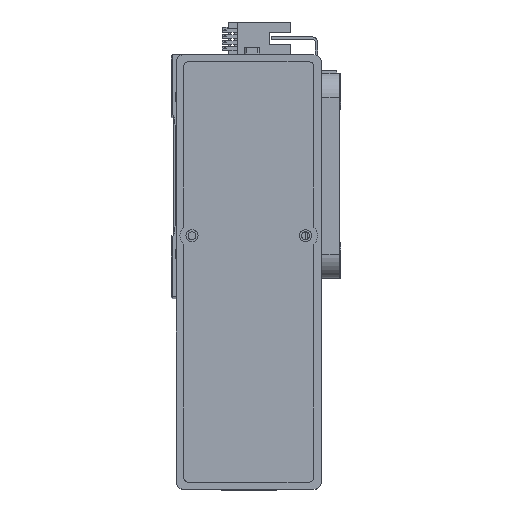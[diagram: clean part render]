
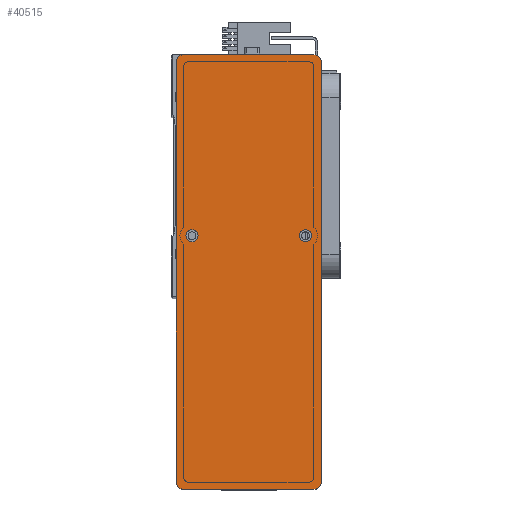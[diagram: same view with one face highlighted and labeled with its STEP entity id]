
A CAD part, top view. The second image highlights one B-rep face of the part: STEP entity #40515.
In plain terms, the highlighted planar face has unit normal (0, 0, 1) as drawn and (0, 0, -1) by its records, which use the part's own axes.
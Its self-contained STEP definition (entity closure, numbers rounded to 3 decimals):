
#1151 = AXIS2_PLACEMENT_3D ( 'NONE', #22767, #54071, #27335 ) ;
#1906 = VERTEX_POINT ( 'NONE', #56718 ) ;
#2569 = DIRECTION ( 'NONE',  ( 1., 0., 0. ) ) ;
#2951 = DIRECTION ( 'NONE',  ( 0., 1., 0. ) ) ;
#3538 = AXIS2_PLACEMENT_3D ( 'NONE', #42381, #15615, #46854 ) ;
#3693 = DIRECTION ( 'NONE',  ( -1., 0., 0. ) ) ;
#3739 = DIRECTION ( 'NONE',  ( 0., 0., -1. ) ) ;
#3804 = CARTESIAN_POINT ( 'NONE',  ( -87., 30., 0. ) ) ;
#4254 = VERTEX_POINT ( 'NONE', #3804 ) ;
#6345 = ORIENTED_EDGE ( 'NONE', *, *, #7943, .T. ) ;
#7034 = VERTEX_POINT ( 'NONE', #46156 ) ;
#7065 = DIRECTION ( 'NONE',  ( 0., 0., -1. ) ) ;
#7943 = EDGE_CURVE ( 'NONE', #1906, #38915, #31058, .T. ) ;
#9013 = CARTESIAN_POINT ( 'NONE',  ( 90., 27., 0. ) ) ;
#9282 = LINE ( 'NONE', #40939, #19694 ) ;
#9411 = EDGE_LOOP ( 'NONE', ( #25864, #16130, #38526, #6345, #53189, #22378, #34315, #50955 ) ) ;
#11920 = AXIS2_PLACEMENT_3D ( 'NONE', #23683, #55012, #28282 ) ;
#13095 = LINE ( 'NONE', #29879, #35459 ) ;
#13145 = EDGE_CURVE ( 'NONE', #31931, #38915, #18078, .T. ) ;
#13244 = VERTEX_POINT ( 'NONE', #34025 ) ;
#14213 = FACE_BOUND ( 'NONE', #33367, .T. ) ;
#14632 = CARTESIAN_POINT ( 'NONE',  ( -17.5, -23.5, 0. ) ) ;
#14774 = CARTESIAN_POINT ( 'NONE',  ( -90., -27., 0. ) ) ;
#15615 = DIRECTION ( 'NONE',  ( 0., 0., -1. ) ) ;
#15971 = CIRCLE ( 'NONE', #28433, 3. ) ;
#16130 = ORIENTED_EDGE ( 'NONE', *, *, #46073, .T. ) ;
#17625 = AXIS2_PLACEMENT_3D ( 'NONE', #57153, #30437, #3693 ) ;
#18078 = LINE ( 'NONE', #33089, #30004 ) ;
#18925 = ORIENTED_EDGE ( 'NONE', *, *, #28593, .F. ) ;
#19249 = DIRECTION ( 'NONE',  ( 0., 0., 1. ) ) ;
#19694 = VECTOR ( 'NONE', #23104, 1000. ) ;
#19859 = AXIS2_PLACEMENT_3D ( 'NONE', #22635, #53931, #27179 ) ;
#19896 = AXIS2_PLACEMENT_3D ( 'NONE', #33851, #7065, #38308 ) ;
#20318 = CIRCLE ( 'NONE', #17625, 2.5 ) ;
#20322 = CARTESIAN_POINT ( 'NONE',  ( 90., -27., 0. ) ) ;
#20643 = CIRCLE ( 'NONE', #11920, 2.5 ) ;
#21149 = VERTEX_POINT ( 'NONE', #9013 ) ;
#22378 = ORIENTED_EDGE ( 'NONE', *, *, #51408, .T. ) ;
#22635 = CARTESIAN_POINT ( 'NONE',  ( -15., 23.5, 0. ) ) ;
#22767 = CARTESIAN_POINT ( 'NONE',  ( 87., -27., 0. ) ) ;
#23104 = DIRECTION ( 'NONE',  ( -1., 0., 0. ) ) ;
#23683 = CARTESIAN_POINT ( 'NONE',  ( -15., -23.5, 0. ) ) ;
#24526 = CARTESIAN_POINT ( 'NONE',  ( -17.5, 23.5, 0. ) ) ;
#25864 = ORIENTED_EDGE ( 'NONE', *, *, #49652, .F. ) ;
#26851 = DIRECTION ( 'NONE',  ( 1., 0., 0. ) ) ;
#26953 = AXIS2_PLACEMENT_3D ( 'NONE', #41525, #19249, #50536 ) ;
#27179 = DIRECTION ( 'NONE',  ( -1., 0., 0. ) ) ;
#27335 = DIRECTION ( 'NONE',  ( 1., 0., 0. ) ) ;
#28282 = DIRECTION ( 'NONE',  ( -1., 0., 0. ) ) ;
#28433 = AXIS2_PLACEMENT_3D ( 'NONE', #56038, #29319, #2569 ) ;
#28593 = EDGE_CURVE ( 'NONE', #28751, #49379, #20643, .T. ) ;
#28751 = VERTEX_POINT ( 'NONE', #51293 ) ;
#28785 = DIRECTION ( 'NONE',  ( 0., -1., 0. ) ) ;
#29018 = EDGE_CURVE ( 'NONE', #1906, #7034, #54819, .T. ) ;
#29319 = DIRECTION ( 'NONE',  ( 0., 0., -1. ) ) ;
#29879 = CARTESIAN_POINT ( 'NONE',  ( 90., -30., 0. ) ) ;
#30004 = VECTOR ( 'NONE', #28785, 1000. ) ;
#30437 = DIRECTION ( 'NONE',  ( 0., 0., -1. ) ) ;
#30496 = CARTESIAN_POINT ( 'NONE',  ( -87., -27., 0. ) ) ;
#31038 = EDGE_LOOP ( 'NONE', ( #33675, #18925 ) ) ;
#31058 = CIRCLE ( 'NONE', #41438, 3. ) ;
#31104 = VECTOR ( 'NONE', #26851, 1000. ) ;
#31931 = VERTEX_POINT ( 'NONE', #57085 ) ;
#32325 = ORIENTED_EDGE ( 'NONE', *, *, #47602, .F. ) ;
#33089 = CARTESIAN_POINT ( 'NONE',  ( -90., -30., 0. ) ) ;
#33367 = EDGE_LOOP ( 'NONE', ( #36456, #32325 ) ) ;
#33675 = ORIENTED_EDGE ( 'NONE', *, *, #46735, .F. ) ;
#33823 = CIRCLE ( 'NONE', #1151, 3. ) ;
#33851 = CARTESIAN_POINT ( 'NONE',  ( -15., 23.5, 0. ) ) ;
#34025 = CARTESIAN_POINT ( 'NONE',  ( 87., 30., 0. ) ) ;
#34315 = ORIENTED_EDGE ( 'NONE', *, *, #36878, .F. ) ;
#34949 = DIRECTION ( 'NONE',  ( 1., 0., 0. ) ) ;
#35459 = VECTOR ( 'NONE', #2951, 1000. ) ;
#35858 = CIRCLE ( 'NONE', #19896, 2.5 ) ;
#36456 = ORIENTED_EDGE ( 'NONE', *, *, #56932, .F. ) ;
#36458 = VERTEX_POINT ( 'NONE', #24526 ) ;
#36830 = PLANE ( 'NONE',  #26953 ) ;
#36878 = EDGE_CURVE ( 'NONE', #13244, #4254, #9282, .T. ) ;
#37986 = FACE_OUTER_BOUND ( 'NONE', #9411, .T. ) ;
#38308 = DIRECTION ( 'NONE',  ( -1., 0., 0. ) ) ;
#38526 = ORIENTED_EDGE ( 'NONE', *, *, #29018, .F. ) ;
#38915 = VERTEX_POINT ( 'NONE', #14774 ) ;
#40515 = ADVANCED_FACE ( 'NONE', ( #14213, #49883, #37986 ), #36830, .F. ) ;
#40939 = CARTESIAN_POINT ( 'NONE',  ( 90., 30., 0. ) ) ;
#41438 = AXIS2_PLACEMENT_3D ( 'NONE', #30496, #3739, #34949 ) ;
#41525 = CARTESIAN_POINT ( 'NONE',  ( 0., 0., 0. ) ) ;
#42212 = CIRCLE ( 'NONE', #3538, 3. ) ;
#42381 = CARTESIAN_POINT ( 'NONE',  ( 87., 27., 0. ) ) ;
#45604 = CIRCLE ( 'NONE', #19859, 2.5 ) ;
#46073 = EDGE_CURVE ( 'NONE', #47634, #7034, #33823, .T. ) ;
#46156 = CARTESIAN_POINT ( 'NONE',  ( 87., -30., 0. ) ) ;
#46420 = CARTESIAN_POINT ( 'NONE',  ( -12.5, 23.5, 0. ) ) ;
#46735 = EDGE_CURVE ( 'NONE', #49379, #28751, #20318, .T. ) ;
#46854 = DIRECTION ( 'NONE',  ( 1., 0., 0. ) ) ;
#47602 = EDGE_CURVE ( 'NONE', #57513, #36458, #35858, .T. ) ;
#47634 = VERTEX_POINT ( 'NONE', #20322 ) ;
#49113 = CARTESIAN_POINT ( 'NONE',  ( 90., -30., 0. ) ) ;
#49379 = VERTEX_POINT ( 'NONE', #14632 ) ;
#49652 = EDGE_CURVE ( 'NONE', #47634, #21149, #13095, .T. ) ;
#49883 = FACE_BOUND ( 'NONE', #31038, .T. ) ;
#50536 = DIRECTION ( 'NONE',  ( 1., 0., 0. ) ) ;
#50955 = ORIENTED_EDGE ( 'NONE', *, *, #57119, .T. ) ;
#51293 = CARTESIAN_POINT ( 'NONE',  ( -12.5, -23.5, 0. ) ) ;
#51408 = EDGE_CURVE ( 'NONE', #31931, #4254, #15971, .T. ) ;
#53189 = ORIENTED_EDGE ( 'NONE', *, *, #13145, .F. ) ;
#53931 = DIRECTION ( 'NONE',  ( 0., 0., -1. ) ) ;
#54071 = DIRECTION ( 'NONE',  ( 0., 0., -1. ) ) ;
#54819 = LINE ( 'NONE', #49113, #31104 ) ;
#55012 = DIRECTION ( 'NONE',  ( 0., 0., -1. ) ) ;
#56038 = CARTESIAN_POINT ( 'NONE',  ( -87., 27., 0. ) ) ;
#56718 = CARTESIAN_POINT ( 'NONE',  ( -87., -30., 0. ) ) ;
#56932 = EDGE_CURVE ( 'NONE', #36458, #57513, #45604, .T. ) ;
#57085 = CARTESIAN_POINT ( 'NONE',  ( -90., 27., 0. ) ) ;
#57119 = EDGE_CURVE ( 'NONE', #13244, #21149, #42212, .T. ) ;
#57153 = CARTESIAN_POINT ( 'NONE',  ( -15., -23.5, 0. ) ) ;
#57513 = VERTEX_POINT ( 'NONE', #46420 ) ;
